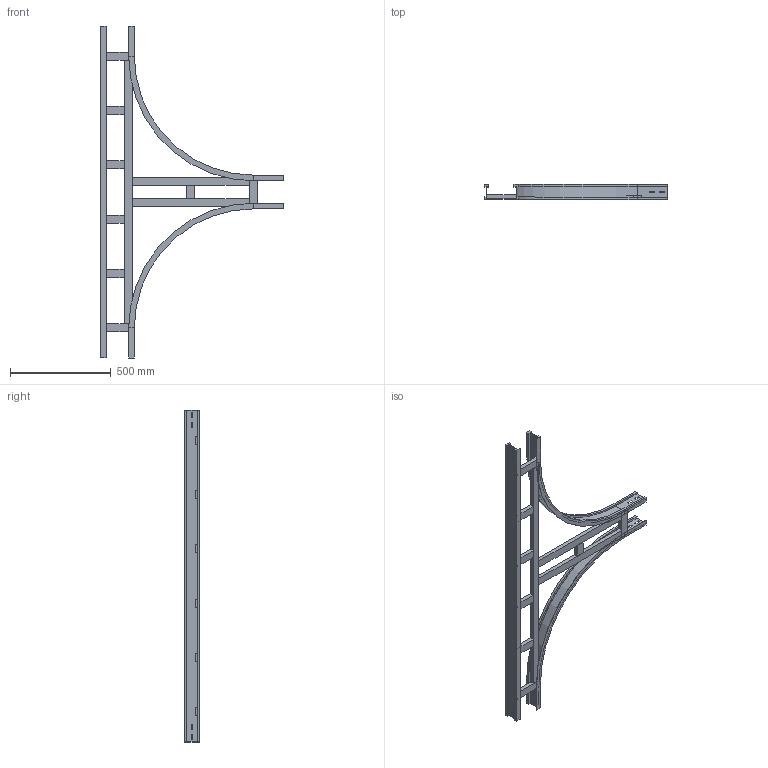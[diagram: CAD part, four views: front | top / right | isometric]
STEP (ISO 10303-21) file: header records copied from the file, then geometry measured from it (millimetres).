
FILE_DESCRIPTION (( 'STEP AP214' ), '1' );
FILE_NAME ('15S6C150.step', '2025-02-21T16:15:11', ( '' ), ( '' ), 'SwSTEP 2.0', 'SolidWorks 2023', '' );
FILE_SCHEMA (( 'AUTOMOTIVE_DESIGN' ));
Length unit declared in the file: millimetre
Products named in the file (8): TRAVERSINO_COPPIA_150; TRAVERSINO_150; 15S6C150; LONGH.INTERNO 90°_H75_R600; TRAVERSINO_LONG._R600+150; TRAVERSINO_VERT_R600; LONGH.RETT_H75_R600+150; TRAVERSINO_INTERMEDIO_R600+150
Assembly tree (14 placements, depth 2):
  15S6C150
    LONGH.INTERNO 90°_H75_R600  x2
    LONGH.RETT_H75_R600+150
    TRAVERSINO_150  x3
    TRAVERSINO_LONG._R600+150
    TRAVERSINO_INTERMEDIO_R600+150  x4
    TRAVERSINO_VERT_R600  x2
    TRAVERSINO_COPPIA_150
Bounding box: 909 x 75 x 1650 mm (x, y, z)
Volume: 4792699.3 mm3; surface area: 1451279.4 mm2
Topology: 14 solids, 14 shells, 204 faces, 480 edges, 304 vertices
Faces by surface type: plane 192, cylinder 12
Entity records: 3581 total; most frequent: CARTESIAN_POINT 583, ORIENTED_EDGE 552, DIRECTION 550, EDGE_CURVE 276, VECTOR 264, LINE 264, VERTEX_POINT 176, AXIS2_PLACEMENT_3D 143
